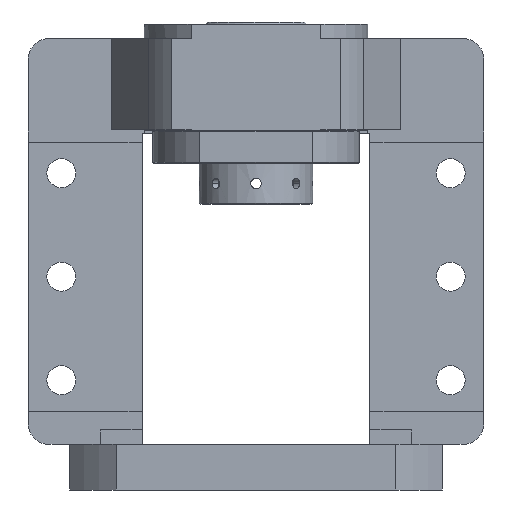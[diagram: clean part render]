
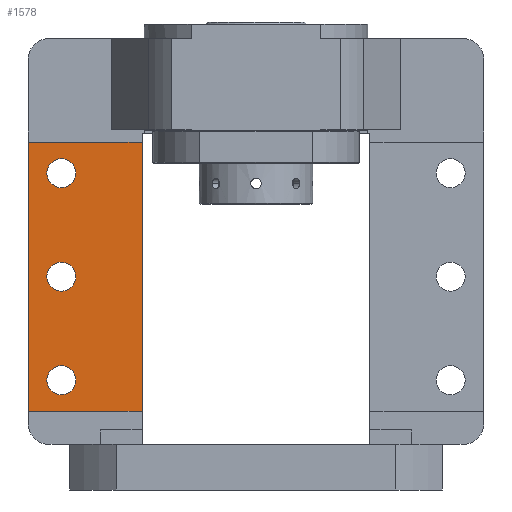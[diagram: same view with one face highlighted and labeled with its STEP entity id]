
A CAD part, front view. The second image highlights one B-rep face of the part: STEP entity #1578.
In plain terms, the highlighted planar face has unit normal (0, -1, 0).
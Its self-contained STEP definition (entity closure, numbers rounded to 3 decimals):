
#455 = CIRCLE ( 'NONE', #13522, 7. ) ;
#1102 = CARTESIAN_POINT ( 'NONE',  ( -55., 0., 38. ) ) ;
#1386 = CARTESIAN_POINT ( 'NONE',  ( -110., 0., 38. ) ) ;
#1578 = ADVANCED_FACE ( 'NONE', ( #20870, #15871, #16455, #10848 ), #2901, .F. ) ;
#1843 = VERTEX_POINT ( 'NONE', #3475 ) ;
#2196 = DIRECTION ( 'NONE',  ( 0., 1., 0. ) ) ;
#2715 = VERTEX_POINT ( 'NONE', #10648 ) ;
#2901 = PLANE ( 'NONE',  #18064 ) ;
#3238 = EDGE_CURVE ( 'NONE', #12439, #2715, #13461, .T. ) ;
#3259 = VERTEX_POINT ( 'NONE', #3609 ) ;
#3475 = CARTESIAN_POINT ( 'NONE',  ( -94., 0., 60. ) ) ;
#3574 = ORIENTED_EDGE ( 'NONE', *, *, #4683, .F. ) ;
#3609 = CARTESIAN_POINT ( 'NONE',  ( -94., 0., 96. ) ) ;
#4683 = EDGE_CURVE ( 'NONE', #2715, #8259, #21099, .T. ) ;
#5334 = CARTESIAN_POINT ( 'NONE',  ( -94., 0., 103. ) ) ;
#5406 = ORIENTED_EDGE ( 'NONE', *, *, #16165, .T. ) ;
#5583 = DIRECTION ( 'NONE',  ( 0., 1., 0. ) ) ;
#5737 = CARTESIAN_POINT ( 'NONE',  ( -94., 0., 53. ) ) ;
#5779 = VERTEX_POINT ( 'NONE', #22171 ) ;
#6017 = CIRCLE ( 'NONE', #10070, 7. ) ;
#6680 = EDGE_CURVE ( 'NONE', #3259, #17034, #20451, .T. ) ;
#6696 = EDGE_CURVE ( 'NONE', #5779, #10480, #455, .T. ) ;
#6765 = EDGE_LOOP ( 'NONE', ( #21789, #13123 ) ) ;
#6815 = EDGE_CURVE ( 'NONE', #17034, #3259, #9277, .T. ) ;
#6869 = ORIENTED_EDGE ( 'NONE', *, *, #16970, .T. ) ;
#7228 = DIRECTION ( 'NONE',  ( 0., 0., -1. ) ) ;
#7320 = ORIENTED_EDGE ( 'NONE', *, *, #7362, .T. ) ;
#7362 = EDGE_CURVE ( 'NONE', #22067, #1843, #10143, .T. ) ;
#7638 = DIRECTION ( 'NONE',  ( 0., 0., -1. ) ) ;
#7815 = EDGE_CURVE ( 'NONE', #10480, #5779, #6017, .T. ) ;
#7883 = VECTOR ( 'NONE', #23893, 1000. ) ;
#8204 = ORIENTED_EDGE ( 'NONE', *, *, #6815, .T. ) ;
#8207 = ORIENTED_EDGE ( 'NONE', *, *, #3238, .F. ) ;
#8259 = VERTEX_POINT ( 'NONE', #1102 ) ;
#8667 = CARTESIAN_POINT ( 'NONE',  ( -55., 0., 225. ) ) ;
#9221 = EDGE_LOOP ( 'NONE', ( #23774, #8204 ) ) ;
#9277 = CIRCLE ( 'NONE', #18563, 7. ) ;
#9379 = EDGE_LOOP ( 'NONE', ( #7320, #6869 ) ) ;
#9511 = CARTESIAN_POINT ( 'NONE',  ( -94., 0., 46. ) ) ;
#10070 = AXIS2_PLACEMENT_3D ( 'NONE', #13439, #2196, #15351 ) ;
#10143 = CIRCLE ( 'NONE', #16846, 7. ) ;
#10410 = CARTESIAN_POINT ( 'NONE',  ( -110., 0., 225. ) ) ;
#10449 = DIRECTION ( 'NONE',  ( 0., 1., 0. ) ) ;
#10473 = VECTOR ( 'NONE', #21677, 1000. ) ;
#10480 = VERTEX_POINT ( 'NONE', #17115 ) ;
#10483 = VECTOR ( 'NONE', #12455, 1000. ) ;
#10648 = CARTESIAN_POINT ( 'NONE',  ( -55., 0., 168. ) ) ;
#10655 = CARTESIAN_POINT ( 'NONE',  ( -94., 0., 53. ) ) ;
#10848 = FACE_OUTER_BOUND ( 'NONE', #19663, .T. ) ;
#10986 = AXIS2_PLACEMENT_3D ( 'NONE', #5334, #18487, #7228 ) ;
#11000 = DIRECTION ( 'NONE',  ( 0., 1., 0. ) ) ;
#11511 = DIRECTION ( 'NONE',  ( -1., 0., 0. ) ) ;
#12439 = VERTEX_POINT ( 'NONE', #17303 ) ;
#12455 = DIRECTION ( 'NONE',  ( 0., 0., -1. ) ) ;
#12506 = EDGE_CURVE ( 'NONE', #8259, #13604, #24334, .T. ) ;
#12537 = DIRECTION ( 'NONE',  ( 0., 0., -1. ) ) ;
#12631 = CARTESIAN_POINT ( 'NONE',  ( -110., 0., 168. ) ) ;
#13123 = ORIENTED_EDGE ( 'NONE', *, *, #6696, .T. ) ;
#13439 = CARTESIAN_POINT ( 'NONE',  ( -94., 0., 153. ) ) ;
#13461 = LINE ( 'NONE', #12631, #7883 ) ;
#13522 = AXIS2_PLACEMENT_3D ( 'NONE', #22273, #11000, #24163 ) ;
#13604 = VERTEX_POINT ( 'NONE', #1386 ) ;
#15351 = DIRECTION ( 'NONE',  ( 0., 0., -1. ) ) ;
#15871 = FACE_BOUND ( 'NONE', #9379, .T. ) ;
#16053 = CARTESIAN_POINT ( 'NONE',  ( -110., 0., 225. ) ) ;
#16165 = EDGE_CURVE ( 'NONE', #12439, #13604, #20482, .T. ) ;
#16455 = FACE_BOUND ( 'NONE', #6765, .T. ) ;
#16811 = AXIS2_PLACEMENT_3D ( 'NONE', #5737, #18900, #7638 ) ;
#16846 = AXIS2_PLACEMENT_3D ( 'NONE', #10655, #23805, #12537 ) ;
#16859 = CARTESIAN_POINT ( 'NONE',  ( -94., 0., 103. ) ) ;
#16970 = EDGE_CURVE ( 'NONE', #1843, #22067, #22838, .T. ) ;
#17034 = VERTEX_POINT ( 'NONE', #17101 ) ;
#17101 = CARTESIAN_POINT ( 'NONE',  ( -94., 0., 110. ) ) ;
#17115 = CARTESIAN_POINT ( 'NONE',  ( -94., 0., 146. ) ) ;
#17303 = CARTESIAN_POINT ( 'NONE',  ( -110., 0., 168. ) ) ;
#18064 = AXIS2_PLACEMENT_3D ( 'NONE', #16053, #10449, #23609 ) ;
#18475 = ORIENTED_EDGE ( 'NONE', *, *, #12506, .F. ) ;
#18487 = DIRECTION ( 'NONE',  ( 0., 1., 0. ) ) ;
#18563 = AXIS2_PLACEMENT_3D ( 'NONE', #16859, #5583, #18736 ) ;
#18736 = DIRECTION ( 'NONE',  ( 0., 0., -1. ) ) ;
#18900 = DIRECTION ( 'NONE',  ( 0., 1., 0. ) ) ;
#19358 = VECTOR ( 'NONE', #11511, 1000. ) ;
#19663 = EDGE_LOOP ( 'NONE', ( #8207, #5406, #18475, #3574 ) ) ;
#20451 = CIRCLE ( 'NONE', #10986, 7. ) ;
#20482 = LINE ( 'NONE', #10410, #10473 ) ;
#20870 = FACE_BOUND ( 'NONE', #9221, .T. ) ;
#20883 = CARTESIAN_POINT ( 'NONE',  ( -110., 0., 38. ) ) ;
#21099 = LINE ( 'NONE', #8667, #10483 ) ;
#21677 = DIRECTION ( 'NONE',  ( 0., 0., -1. ) ) ;
#21789 = ORIENTED_EDGE ( 'NONE', *, *, #7815, .T. ) ;
#22067 = VERTEX_POINT ( 'NONE', #9511 ) ;
#22171 = CARTESIAN_POINT ( 'NONE',  ( -94., 0., 160. ) ) ;
#22273 = CARTESIAN_POINT ( 'NONE',  ( -94., 0., 153. ) ) ;
#22838 = CIRCLE ( 'NONE', #16811, 7. ) ;
#23609 = DIRECTION ( 'NONE',  ( 0., 0., 1. ) ) ;
#23774 = ORIENTED_EDGE ( 'NONE', *, *, #6680, .T. ) ;
#23805 = DIRECTION ( 'NONE',  ( 0., 1., 0. ) ) ;
#23893 = DIRECTION ( 'NONE',  ( 1., 0., 0. ) ) ;
#24163 = DIRECTION ( 'NONE',  ( 0., 0., -1. ) ) ;
#24334 = LINE ( 'NONE', #20883, #19358 ) ;
